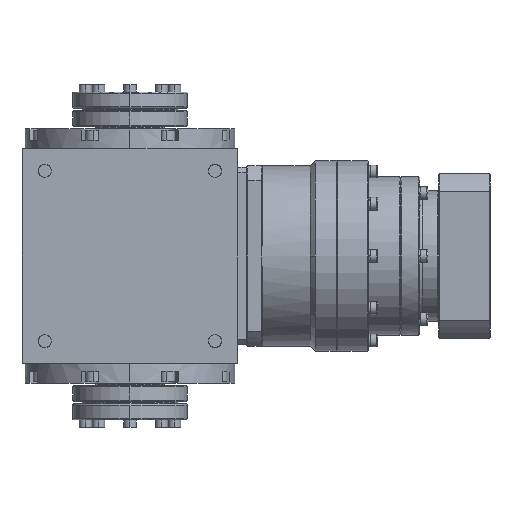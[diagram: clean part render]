
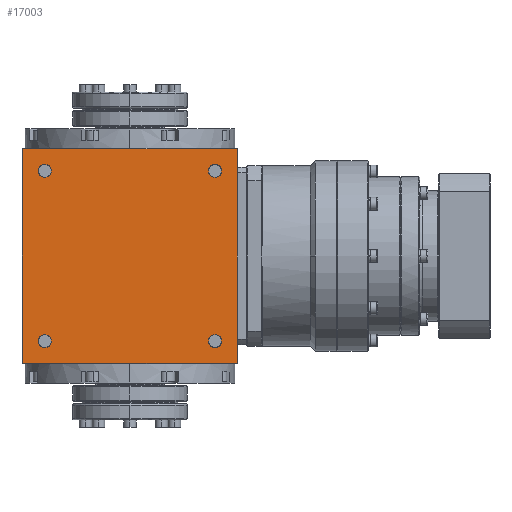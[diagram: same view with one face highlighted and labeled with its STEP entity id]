
A CAD part, left-side view. The second image highlights one B-rep face of the part: STEP entity #17003.
In plain terms, the highlighted planar face has unit normal (-1, 0, 0).
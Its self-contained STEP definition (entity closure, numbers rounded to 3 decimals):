
#34 = CARTESIAN_POINT ( 'NONE',  ( -85., 67., 72.1 ) ) ;
#280 = AXIS2_PLACEMENT_3D ( 'NONE', #46172, #50720, #9260 ) ;
#482 = VERTEX_POINT ( 'NONE', #11038 ) ;
#675 = DIRECTION ( 'NONE',  ( 0., 0., 1. ) ) ;
#695 = ORIENTED_EDGE ( 'NONE', *, *, #2747, .T. ) ;
#704 = EDGE_CURVE ( 'NONE', #2882, #13834, #27607, .T. ) ;
#939 = FACE_BOUND ( 'NONE', #48263, .T. ) ;
#961 = CARTESIAN_POINT ( 'NONE',  ( -85., 67., -67. ) ) ;
#1190 = DIRECTION ( 'NONE',  ( 0., -1., 0. ) ) ;
#1214 = LINE ( 'NONE', #21107, #13734 ) ;
#1409 = ORIENTED_EDGE ( 'NONE', *, *, #47832, .T. ) ;
#1464 = LINE ( 'NONE', #47469, #3394 ) ;
#2010 = DIRECTION ( 'NONE',  ( 0., 0., 1. ) ) ;
#2640 = ORIENTED_EDGE ( 'NONE', *, *, #32127, .T. ) ;
#2747 = EDGE_CURVE ( 'NONE', #7440, #26069, #1464, .T. ) ;
#2882 = VERTEX_POINT ( 'NONE', #20508 ) ;
#3394 = VECTOR ( 'NONE', #14378, 1000. ) ;
#3715 = AXIS2_PLACEMENT_3D ( 'NONE', #21035, #34240, #21310 ) ;
#3741 = LINE ( 'NONE', #48437, #48890 ) ;
#4538 = CIRCLE ( 'NONE', #7945, 5.1 ) ;
#5522 = FACE_OUTER_BOUND ( 'NONE', #29970, .T. ) ;
#5966 = CIRCLE ( 'NONE', #36036, 5.1 ) ;
#7043 = ORIENTED_EDGE ( 'NONE', *, *, #22713, .T. ) ;
#7440 = VERTEX_POINT ( 'NONE', #13235 ) ;
#7945 = AXIS2_PLACEMENT_3D ( 'NONE', #8672, #44794, #53112 ) ;
#8160 = DIRECTION ( 'NONE',  ( 0., 0., 1. ) ) ;
#8672 = CARTESIAN_POINT ( 'NONE',  ( -85., -67., 67. ) ) ;
#9260 = DIRECTION ( 'NONE',  ( 0., 0., 1. ) ) ;
#9538 = DIRECTION ( 'NONE',  ( -1., 0., 0. ) ) ;
#11038 = CARTESIAN_POINT ( 'NONE',  ( -85., 67., -61.9 ) ) ;
#12932 = VECTOR ( 'NONE', #15942, 1000. ) ;
#13077 = VERTEX_POINT ( 'NONE', #48163 ) ;
#13235 = CARTESIAN_POINT ( 'NONE',  ( -85., -84.5, 84.5 ) ) ;
#13439 = VERTEX_POINT ( 'NONE', #36716 ) ;
#13462 = CARTESIAN_POINT ( 'NONE',  ( -85., -84.5, -84.5 ) ) ;
#13734 = VECTOR ( 'NONE', #20846, 1000. ) ;
#13834 = VERTEX_POINT ( 'NONE', #34 ) ;
#14112 = AXIS2_PLACEMENT_3D ( 'NONE', #17053, #44833, #36729 ) ;
#14153 = DIRECTION ( 'NONE',  ( 1., 0., 0. ) ) ;
#14378 = DIRECTION ( 'NONE',  ( 0., 1., 0. ) ) ;
#14447 = ORIENTED_EDGE ( 'NONE', *, *, #30793, .T. ) ;
#15742 = EDGE_LOOP ( 'NONE', ( #14447, #1409 ) ) ;
#15942 = DIRECTION ( 'NONE',  ( 0., -1., 0. ) ) ;
#16205 = LINE ( 'NONE', #39906, #12932 ) ;
#17003 = ADVANCED_FACE ( 'NONE', ( #21363, #41602, #939, #50453, #5522 ), #42678, .T. ) ;
#17012 = EDGE_CURVE ( 'NONE', #13077, #39940, #34678, .T. ) ;
#17053 = CARTESIAN_POINT ( 'NONE',  ( -85., -67., -67. ) ) ;
#17984 = CARTESIAN_POINT ( 'NONE',  ( -85., 67., -72.1 ) ) ;
#20508 = CARTESIAN_POINT ( 'NONE',  ( -85., 67., 61.9 ) ) ;
#20846 = DIRECTION ( 'NONE',  ( 0., 0., -1. ) ) ;
#20872 = VERTEX_POINT ( 'NONE', #23146 ) ;
#21035 = CARTESIAN_POINT ( 'NONE',  ( -85., -67., 67. ) ) ;
#21107 = CARTESIAN_POINT ( 'NONE',  ( -85., 84.5, -85. ) ) ;
#21310 = DIRECTION ( 'NONE',  ( 0., 0., 1. ) ) ;
#21363 = FACE_BOUND ( 'NONE', #42465, .T. ) ;
#21552 = EDGE_CURVE ( 'NONE', #13834, #2882, #34360, .T. ) ;
#22654 = EDGE_CURVE ( 'NONE', #36352, #482, #5966, .T. ) ;
#22713 = EDGE_CURVE ( 'NONE', #26069, #13439, #1214, .T. ) ;
#23146 = CARTESIAN_POINT ( 'NONE',  ( -85., -67., 61.9 ) ) ;
#24144 = ORIENTED_EDGE ( 'NONE', *, *, #22654, .T. ) ;
#24415 = ORIENTED_EDGE ( 'NONE', *, *, #17012, .T. ) ;
#25724 = DIRECTION ( 'NONE',  ( 1., 0., 0. ) ) ;
#26069 = VERTEX_POINT ( 'NONE', #32429 ) ;
#27451 = EDGE_CURVE ( 'NONE', #43954, #7440, #3741, .T. ) ;
#27607 = CIRCLE ( 'NONE', #49092, 5.1 ) ;
#28564 = EDGE_CURVE ( 'NONE', #13439, #43954, #16205, .T. ) ;
#29970 = EDGE_LOOP ( 'NONE', ( #7043, #50373, #50915, #695 ) ) ;
#30377 = DIRECTION ( 'NONE',  ( 0., 0., 1. ) ) ;
#30793 = EDGE_CURVE ( 'NONE', #34216, #20872, #4538, .T. ) ;
#31857 = CARTESIAN_POINT ( 'NONE',  ( -85., 67., -67. ) ) ;
#32127 = EDGE_CURVE ( 'NONE', #39940, #13077, #35569, .T. ) ;
#32202 = ORIENTED_EDGE ( 'NONE', *, *, #51469, .T. ) ;
#32429 = CARTESIAN_POINT ( 'NONE',  ( -85., 84.5, 84.5 ) ) ;
#32579 = CARTESIAN_POINT ( 'NONE',  ( -85., -67., -72.1 ) ) ;
#33492 = CARTESIAN_POINT ( 'NONE',  ( -85., 85., -85. ) ) ;
#34216 = VERTEX_POINT ( 'NONE', #42929 ) ;
#34240 = DIRECTION ( 'NONE',  ( 1., 0., 0. ) ) ;
#34360 = CIRCLE ( 'NONE', #48112, 5.1 ) ;
#34595 = CARTESIAN_POINT ( 'NONE',  ( -85., 67., 67. ) ) ;
#34677 = DIRECTION ( 'NONE',  ( 1., 0., 0. ) ) ;
#34678 = CIRCLE ( 'NONE', #280, 5.1 ) ;
#35569 = CIRCLE ( 'NONE', #14112, 5.1 ) ;
#36036 = AXIS2_PLACEMENT_3D ( 'NONE', #961, #25724, #675 ) ;
#36352 = VERTEX_POINT ( 'NONE', #17984 ) ;
#36716 = CARTESIAN_POINT ( 'NONE',  ( -85., 84.5, -84.5 ) ) ;
#36729 = DIRECTION ( 'NONE',  ( 0., 0., 1. ) ) ;
#39906 = CARTESIAN_POINT ( 'NONE',  ( -85., 85., -84.5 ) ) ;
#39940 = VERTEX_POINT ( 'NONE', #32579 ) ;
#40144 = ORIENTED_EDGE ( 'NONE', *, *, #21552, .T. ) ;
#41602 = FACE_BOUND ( 'NONE', #45819, .T. ) ;
#42465 = EDGE_LOOP ( 'NONE', ( #40144, #51627 ) ) ;
#42678 = PLANE ( 'NONE',  #44157 ) ;
#42929 = CARTESIAN_POINT ( 'NONE',  ( -85., -67., 72.1 ) ) ;
#43954 = VERTEX_POINT ( 'NONE', #13462 ) ;
#44133 = CIRCLE ( 'NONE', #3715, 5.1 ) ;
#44157 = AXIS2_PLACEMENT_3D ( 'NONE', #33492, #9538, #1190 ) ;
#44267 = DIRECTION ( 'NONE',  ( 1., 0., 0. ) ) ;
#44561 = AXIS2_PLACEMENT_3D ( 'NONE', #31857, #44267, #8160 ) ;
#44700 = DIRECTION ( 'NONE',  ( 0., 0., 1. ) ) ;
#44794 = DIRECTION ( 'NONE',  ( 1., 0., 0. ) ) ;
#44833 = DIRECTION ( 'NONE',  ( 1., 0., 0. ) ) ;
#45819 = EDGE_LOOP ( 'NONE', ( #24415, #2640 ) ) ;
#46172 = CARTESIAN_POINT ( 'NONE',  ( -85., -67., -67. ) ) ;
#47469 = CARTESIAN_POINT ( 'NONE',  ( -85., 85., 84.5 ) ) ;
#47832 = EDGE_CURVE ( 'NONE', #20872, #34216, #44133, .T. ) ;
#47970 = CIRCLE ( 'NONE', #44561, 5.1 ) ;
#48112 = AXIS2_PLACEMENT_3D ( 'NONE', #34595, #14153, #2010 ) ;
#48163 = CARTESIAN_POINT ( 'NONE',  ( -85., -67., -61.9 ) ) ;
#48263 = EDGE_LOOP ( 'NONE', ( #32202, #24144 ) ) ;
#48437 = CARTESIAN_POINT ( 'NONE',  ( -85., -84.5, -85. ) ) ;
#48890 = VECTOR ( 'NONE', #44700, 1000. ) ;
#49092 = AXIS2_PLACEMENT_3D ( 'NONE', #51633, #34677, #30377 ) ;
#50373 = ORIENTED_EDGE ( 'NONE', *, *, #28564, .T. ) ;
#50453 = FACE_BOUND ( 'NONE', #15742, .T. ) ;
#50720 = DIRECTION ( 'NONE',  ( 1., 0., 0. ) ) ;
#50915 = ORIENTED_EDGE ( 'NONE', *, *, #27451, .T. ) ;
#51469 = EDGE_CURVE ( 'NONE', #482, #36352, #47970, .T. ) ;
#51627 = ORIENTED_EDGE ( 'NONE', *, *, #704, .T. ) ;
#51633 = CARTESIAN_POINT ( 'NONE',  ( -85., 67., 67. ) ) ;
#53112 = DIRECTION ( 'NONE',  ( 0., 0., 1. ) ) ;
